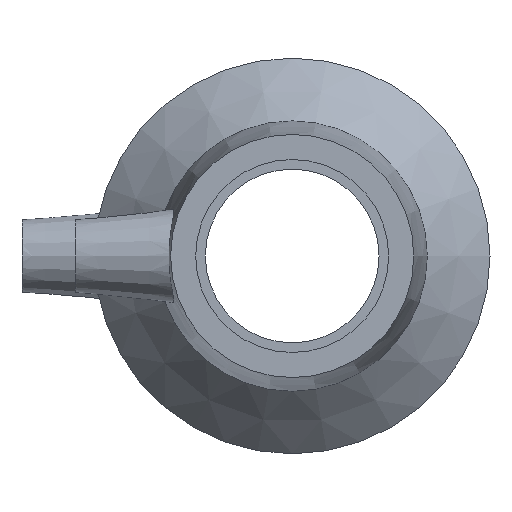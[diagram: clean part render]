
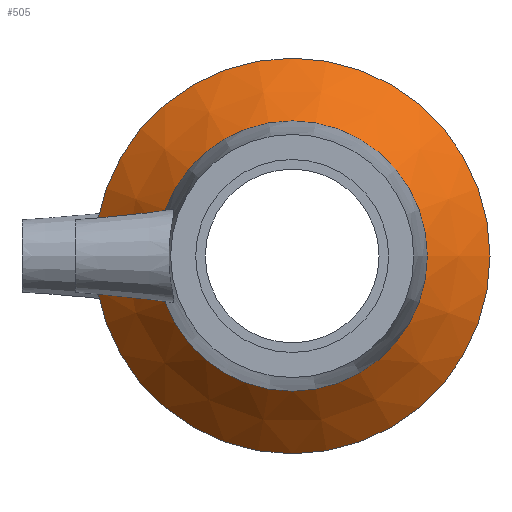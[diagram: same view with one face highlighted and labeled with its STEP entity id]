
A CAD part, left-side view. The second image highlights one B-rep face of the part: STEP entity #505.
In plain terms, the highlighted conical face has half-angle 45 degrees and reference radius 34.5 mm.
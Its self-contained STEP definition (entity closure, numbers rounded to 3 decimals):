
#21=CONICAL_SURFACE('',#571,34.5,0.785);
#46=LINE('',#936,#65);
#65=VECTOR('',#694,34.5);
#101=FACE_OUTER_BOUND('',#136,.T.);
#136=EDGE_LOOP('',(#380,#381,#382,#383,#384,#385));
#173=CIRCLE('',#567,28.);
#174=CIRCLE('',#568,28.);
#177=CIRCLE('',#572,41.);
#178=CIRCLE('',#573,41.);
#226=VERTEX_POINT('',#922);
#227=VERTEX_POINT('',#923);
#230=VERTEX_POINT('',#932);
#231=VERTEX_POINT('',#933);
#285=EDGE_CURVE('',#226,#227,#173,.T.);
#286=EDGE_CURVE('',#227,#226,#174,.T.);
#290=EDGE_CURVE('',#230,#231,#177,.T.);
#291=EDGE_CURVE('',#231,#230,#178,.T.);
#292=EDGE_CURVE('',#231,#227,#46,.T.);
#380=ORIENTED_EDGE('',*,*,#290,.F.);
#381=ORIENTED_EDGE('',*,*,#291,.F.);
#382=ORIENTED_EDGE('',*,*,#292,.T.);
#383=ORIENTED_EDGE('',*,*,#286,.T.);
#384=ORIENTED_EDGE('',*,*,#285,.T.);
#385=ORIENTED_EDGE('',*,*,#292,.F.);
#505=ADVANCED_FACE('',(#101),#21,.T.);
#567=AXIS2_PLACEMENT_3D('',#924,#679,#680);
#568=AXIS2_PLACEMENT_3D('',#925,#681,#682);
#571=AXIS2_PLACEMENT_3D('',#931,#688,#689);
#572=AXIS2_PLACEMENT_3D('',#934,#690,#691);
#573=AXIS2_PLACEMENT_3D('',#935,#692,#693);
#679=DIRECTION('center_axis',(1.,0.,0.));
#680=DIRECTION('ref_axis',(0.,0.,-1.));
#681=DIRECTION('center_axis',(1.,0.,0.));
#682=DIRECTION('ref_axis',(0.,0.,-1.));
#688=DIRECTION('center_axis',(1.,0.,0.));
#689=DIRECTION('ref_axis',(0.,1.,0.));
#690=DIRECTION('center_axis',(1.,0.,0.));
#691=DIRECTION('ref_axis',(0.,0.,-1.));
#692=DIRECTION('center_axis',(1.,0.,0.));
#693=DIRECTION('ref_axis',(0.,0.,-1.));
#694=DIRECTION('',(-0.707,0.707,0.));
#922=CARTESIAN_POINT('',(-11.3,28.,0.));
#923=CARTESIAN_POINT('',(-11.3,-28.,0.));
#924=CARTESIAN_POINT('Origin',(-11.3,0.,0.));
#925=CARTESIAN_POINT('Origin',(-11.3,0.,0.));
#931=CARTESIAN_POINT('Origin',(-4.8,0.,0.));
#932=CARTESIAN_POINT('',(1.7,41.,0.));
#933=CARTESIAN_POINT('',(1.7,-41.,0.));
#934=CARTESIAN_POINT('Origin',(1.7,0.,0.));
#935=CARTESIAN_POINT('Origin',(1.7,0.,0.));
#936=CARTESIAN_POINT('',(-4.8,-34.5,0.));
